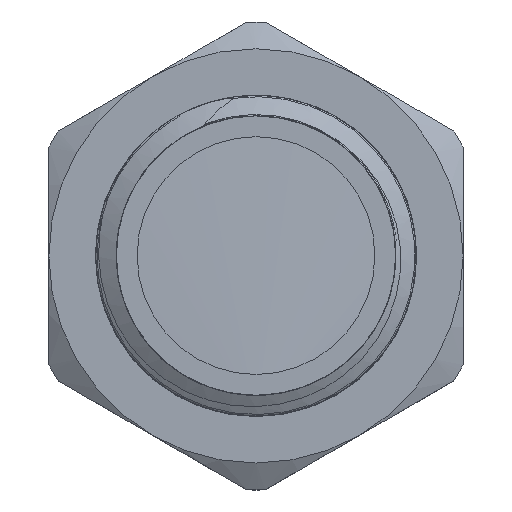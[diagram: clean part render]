
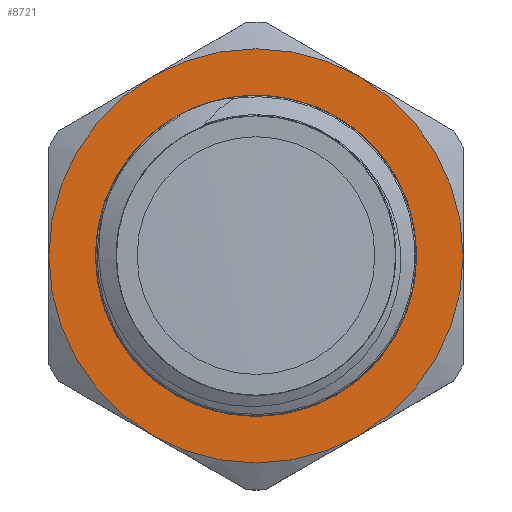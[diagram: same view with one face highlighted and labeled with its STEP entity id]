
A CAD part, top view. The second image highlights one B-rep face of the part: STEP entity #8721.
In plain terms, the highlighted planar face has unit normal (0, 0, 1).
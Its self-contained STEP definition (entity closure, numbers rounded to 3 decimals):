
#1012=FACE_BOUND('',#2748,.T.);
#2112=PLANE('',#9286);
#2235=FACE_OUTER_BOUND('',#2747,.T.);
#2747=EDGE_LOOP('',(#6006,#6007,#6008,#6009,#6010,#6011));
#2748=EDGE_LOOP('',(#6012));
#3291=CIRCLE('',#9244,13.5);
#3293=CIRCLE('',#9247,13.5);
#3295=CIRCLE('',#9250,13.5);
#3297=CIRCLE('',#9253,13.5);
#3298=CIRCLE('',#9255,13.5);
#3300=CIRCLE('',#9258,13.5);
#3310=CIRCLE('',#9277,10.475);
#3558=VERTEX_POINT('',#11088);
#3560=VERTEX_POINT('',#11094);
#3562=VERTEX_POINT('',#11101);
#3565=VERTEX_POINT('',#11113);
#3568=VERTEX_POINT('',#11125);
#3571=VERTEX_POINT('',#11140);
#3583=VERTEX_POINT('',#11190);
#4505=EDGE_CURVE('',#3558,#3560,#3291,.T.);
#4509=EDGE_CURVE('',#3562,#3558,#3293,.T.);
#4513=EDGE_CURVE('',#3565,#3562,#3295,.T.);
#4517=EDGE_CURVE('',#3568,#3565,#3297,.T.);
#4519=EDGE_CURVE('',#3571,#3568,#3298,.T.);
#4523=EDGE_CURVE('',#3560,#3571,#3300,.T.);
#4541=EDGE_CURVE('',#3583,#3583,#3310,.T.);
#6006=ORIENTED_EDGE('',*,*,#4523,.T.);
#6007=ORIENTED_EDGE('',*,*,#4519,.T.);
#6008=ORIENTED_EDGE('',*,*,#4517,.T.);
#6009=ORIENTED_EDGE('',*,*,#4513,.T.);
#6010=ORIENTED_EDGE('',*,*,#4509,.T.);
#6011=ORIENTED_EDGE('',*,*,#4505,.T.);
#6012=ORIENTED_EDGE('',*,*,#4541,.T.);
#8721=ADVANCED_FACE('',(#2235,#1012),#2112,.T.);
#9244=AXIS2_PLACEMENT_3D('',#11098,#9699,#9700);
#9247=AXIS2_PLACEMENT_3D('',#11110,#9705,#9706);
#9250=AXIS2_PLACEMENT_3D('',#11122,#9711,#9712);
#9253=AXIS2_PLACEMENT_3D('',#11134,#9717,#9718);
#9255=AXIS2_PLACEMENT_3D('',#11141,#9721,#9722);
#9258=AXIS2_PLACEMENT_3D('',#11152,#9727,#9728);
#9277=AXIS2_PLACEMENT_3D('',#11191,#9772,#9773);
#9286=AXIS2_PLACEMENT_3D('',#11208,#9797,#9798);
#9699=DIRECTION('center_axis',(0.,0.,1.));
#9700=DIRECTION('ref_axis',(0.,1.,0.));
#9705=DIRECTION('center_axis',(0.,0.,1.));
#9706=DIRECTION('ref_axis',(0.,1.,0.));
#9711=DIRECTION('center_axis',(0.,0.,1.));
#9712=DIRECTION('ref_axis',(0.,1.,0.));
#9717=DIRECTION('center_axis',(0.,0.,1.));
#9718=DIRECTION('ref_axis',(0.,1.,0.));
#9721=DIRECTION('center_axis',(0.,0.,1.));
#9722=DIRECTION('ref_axis',(0.,1.,0.));
#9727=DIRECTION('center_axis',(0.,0.,1.));
#9728=DIRECTION('ref_axis',(0.,1.,0.));
#9772=DIRECTION('center_axis',(0.,0.,-1.));
#9773=DIRECTION('ref_axis',(-1.,0.,0.));
#9797=DIRECTION('center_axis',(0.,0.,1.));
#9798=DIRECTION('ref_axis',(1.,0.,0.));
#11088=CARTESIAN_POINT('',(6.75,-11.691,39.5));
#11094=CARTESIAN_POINT('',(13.5,0.,39.5));
#11098=CARTESIAN_POINT('Origin',(0.,0.,39.5));
#11101=CARTESIAN_POINT('',(-6.75,-11.691,39.5));
#11110=CARTESIAN_POINT('Origin',(0.,0.,39.5));
#11113=CARTESIAN_POINT('',(-13.5,0.,39.5));
#11122=CARTESIAN_POINT('Origin',(0.,0.,39.5));
#11125=CARTESIAN_POINT('',(-6.75,11.691,39.5));
#11134=CARTESIAN_POINT('Origin',(0.,0.,39.5));
#11140=CARTESIAN_POINT('',(6.75,11.691,39.5));
#11141=CARTESIAN_POINT('Origin',(0.,0.,39.5));
#11152=CARTESIAN_POINT('Origin',(0.,0.,39.5));
#11190=CARTESIAN_POINT('',(10.475,0.,39.5));
#11191=CARTESIAN_POINT('Origin',(0.,0.,39.5));
#11208=CARTESIAN_POINT('Origin',(0.,0.,
39.5));
